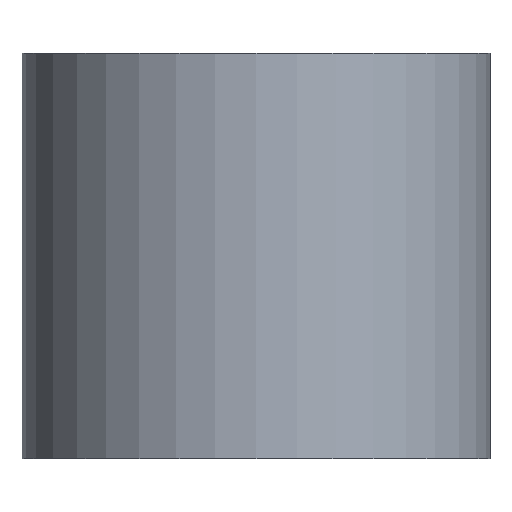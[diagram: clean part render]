
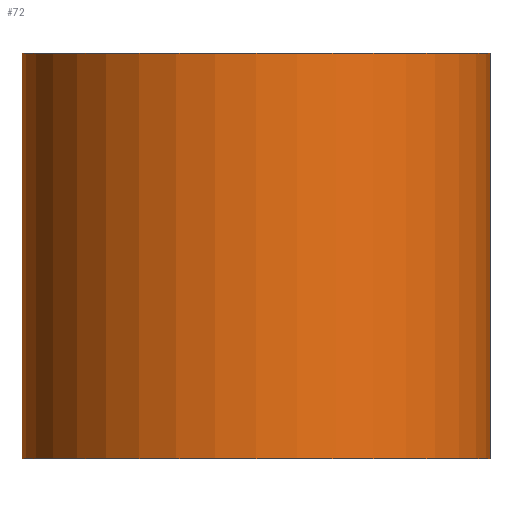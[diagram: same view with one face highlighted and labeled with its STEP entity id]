
A CAD part, front view. The second image highlights one B-rep face of the part: STEP entity #72.
In plain terms, the highlighted cylindrical face has radius 3 mm (diameter 6 mm), a full revolution.
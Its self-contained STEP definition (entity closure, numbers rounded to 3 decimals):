
#20=FACE_OUTER_BOUND('',#24,.T.);
#24=EDGE_LOOP('',(#57,#58,#59,#60,#61,#62));
#30=LINE('',#142,#32);
#32=VECTOR('',#120,3.);
#35=CIRCLE('',#99,3.);
#36=CIRCLE('',#100,3.);
#37=CIRCLE('',#101,3.);
#38=CIRCLE('',#102,3.);
#41=VERTEX_POINT('',#137);
#42=VERTEX_POINT('',#138);
#43=VERTEX_POINT('',#141);
#44=VERTEX_POINT('',#143);
#48=EDGE_CURVE('',#41,#42,#35,.T.);
#49=EDGE_CURVE('',#42,#41,#36,.T.);
#50=EDGE_CURVE('',#42,#43,#30,.T.);
#51=EDGE_CURVE('',#43,#44,#37,.T.);
#52=EDGE_CURVE('',#44,#43,#38,.T.);
#57=ORIENTED_EDGE('',*,*,#48,.F.);
#58=ORIENTED_EDGE('',*,*,#49,.F.);
#59=ORIENTED_EDGE('',*,*,#50,.T.);
#60=ORIENTED_EDGE('',*,*,#51,.T.);
#61=ORIENTED_EDGE('',*,*,#52,.T.);
#62=ORIENTED_EDGE('',*,*,#50,.F.);
#70=CYLINDRICAL_SURFACE('',#98,3.);
#72=ADVANCED_FACE('',(#20),#70,.T.);
#98=AXIS2_PLACEMENT_3D('',#136,#114,#115);
#99=AXIS2_PLACEMENT_3D('',#139,#116,#117);
#100=AXIS2_PLACEMENT_3D('',#140,#118,#119);
#101=AXIS2_PLACEMENT_3D('',#144,#121,#122);
#102=AXIS2_PLACEMENT_3D('',#145,#123,#124);
#114=DIRECTION('center_axis',(0.,0.,1.));
#115=DIRECTION('ref_axis',(1.,0.,0.));
#116=DIRECTION('center_axis',(0.,0.,1.));
#117=DIRECTION('ref_axis',(1.,0.,0.));
#118=DIRECTION('center_axis',(0.,0.,1.));
#119=DIRECTION('ref_axis',(1.,0.,0.));
#120=DIRECTION('',(0.,0.,-1.));
#121=DIRECTION('center_axis',(0.,0.,1.));
#122=DIRECTION('ref_axis',(1.,0.,0.));
#123=DIRECTION('center_axis',(0.,0.,1.));
#124=DIRECTION('ref_axis',(1.,0.,0.));
#136=CARTESIAN_POINT('Origin',(0.,0.,0.));
#137=CARTESIAN_POINT('',(3.,0.,5.2));
#138=CARTESIAN_POINT('',(-3.,0.,5.2));
#139=CARTESIAN_POINT('Origin',(0.,0.,5.2));
#140=CARTESIAN_POINT('Origin',(0.,0.,5.2));
#141=CARTESIAN_POINT('',(-3.,0.,0.));
#142=CARTESIAN_POINT('',(-3.,0.,0.));
#143=CARTESIAN_POINT('',(3.,0.,0.));
#144=CARTESIAN_POINT('Origin',(0.,0.,0.));
#145=CARTESIAN_POINT('Origin',(0.,0.,0.));
